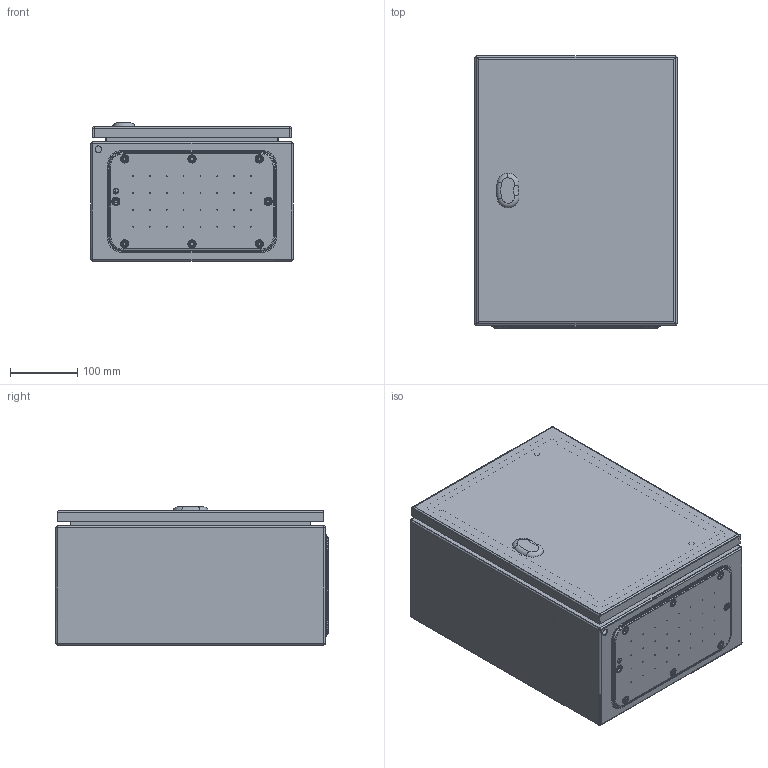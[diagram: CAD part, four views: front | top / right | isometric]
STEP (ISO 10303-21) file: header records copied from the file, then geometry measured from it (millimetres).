
FILE_DESCRIPTION (( 'STEP AP203' ), '1' );
FILE_NAME ('0300x0400x0200 dx.step', '2021-09-07T06:40:05', ( '' ), ( '' ), 'SwSTEP 2.0', 'SolidWorks 2021', '' );
FILE_SCHEMA (( 'CONFIG_CONTROL_DESIGN' ));
Length unit declared in the file: millimetre
Products named in the file (7): AR_ECOR_porta_singola_0300x0400; AR_ECOR_Piastra_04; AR_ECOR_chiusura_std_STD; AR_ECOR_involucro_0300x0400x0200; AR_ECOR_flangia IC_03; 0300x0400x0200 dx; AR_ECOR_montaggio_porta_singola_0300x0400
Assembly tree (6 placements, depth 3):
  0300x0400x0200 dx
    AR_ECOR_involucro_0300x0400x0200
    AR_ECOR_montaggio_porta_singola_0300x0400
      AR_ECOR_porta_singola_0300x0400
      AR_ECOR_chiusura_std_STD
    AR_ECOR_flangia IC_03
    AR_ECOR_Piastra_04
Bounding box: 300 x 404 x 205 mm (x, y, z)
Volume: 1096868.1 mm3; surface area: 1360637.3 mm2
Topology: 5 solids, 5 shells, 661 faces, 1626 edges, 1016 vertices
Faces by surface type: cylinder 323, plane 193, cone 60, torus 41, bspline 28, sphere 16
Entity records: 21315 total; most frequent: CARTESIAN_POINT 4504, DIRECTION 3577, ORIENTED_EDGE 3212, EDGE_CURVE 1606, AXIS2_PLACEMENT_3D 1424, VERTEX_POINT 1016, EDGE_LOOP 850, CIRCLE 781
